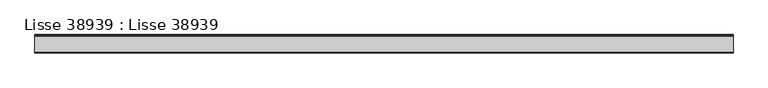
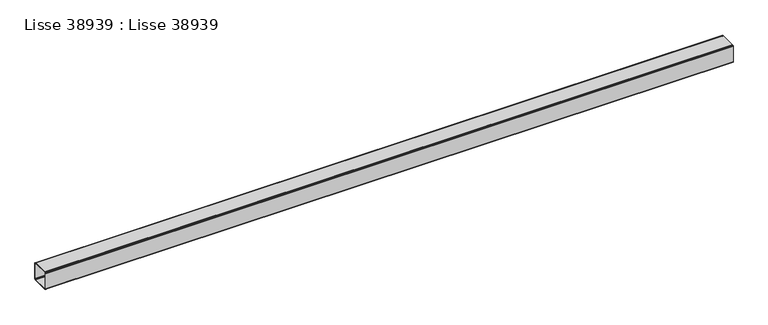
"""IFC4 building model written with IfcOpenShell, lengths in millimetres: beam geometry, Lisse 38939 : Lisse 38939."""

from ifc_helpers import new_model, si_unit, frame, origin, place, context, project, spatial, polyline, outline, extrude, source, transform, mapped, element, save


def lisse_38939_lisse_38939_3ad9c1e5(model_context):
    return source(origin(), model_context, "Body", "SweptSolid", [
        extrude(outline(polyline([(-19777.1961524, 8317.4153428), (-19775.0, 8319.6114952), (-19772.0, 8320.4153428), (-19684.0, 8320.4153428), (-19681.0, 8319.6114952), (-19678.8038476, 8317.4153428), (-19678.0, 8314.4153428), (-19678.0, 8226.4153428), (-19678.8038476, 8223.4153428), (-19681.0, 8221.2191903), (-19684.0, 8220.4153428), (-19772.0, 8220.4153428), (-19775.0, 8221.2191903), (-19777.1961524, 8223.4153428), (-19778.0, 8226.4153428), (-19778.0, 8314.4153428), (-19777.1961524, 8317.4153428)]), holes=[polyline([(-19772.0, 8315.8794444), (-19773.4641016, 8314.4153428), (-19774.0, 8312.4153428), (-19774.0, 8228.4153428), (-19773.4641016, 8226.4153428), (-19772.0, 8224.9512411), (-19770.0, 8224.4153428), (-19686.0, 8224.4153428), (-19684.0, 8224.9512411), (-19682.5358984, 8226.4153428), (-19682.0, 8228.4153428), (-19682.0, 8312.4153428), (-19682.5358984, 8314.4153428), (-19684.0, 8315.8794444), (-19686.0, 8316.4153428), (-19770.0, 8316.4153428), (-19772.0, 8315.8794444)])]), frame((11572.2815707, 0.0, 0.0), z_axis=(1.0, 0.0, 0.0), x_axis=(0.0, 1.0, 0.0)), (0.0, 0.0, 1.0), 3767.7184292),
    ])


if __name__ == "__main__":
    model = new_model("IFC4")
    model_context = context("Model", 3, world=origin())
    ifc_project = project(units=[si_unit("LENGTHUNIT", "METRE", prefix="MILLI")], contexts=[model_context])
    site = spatial("IfcSite", under=ifc_project)
    building = spatial("IfcBuilding", under=site)
    placement = place(None, origin())
    lisse_38939_lisse_38939_shape = lisse_38939_lisse_38939_3ad9c1e5(model_context)
    element("IfcBeam", 1, ObjectType="Lisse 38939 : Lisse 38939", at=placement, inside=building, context=model_context, shape_type="MappedRepresentation", body=[
        mapped(lisse_38939_lisse_38939_shape, transform((0.0, 0.0, 0.0), x_axis=(1.0, 0.0, 0.0), y_axis=(0.0, 1.0, 0.0), z_axis=(0.0, 0.0, 1.0))),
    ])
    save(model, "model.ifc")
